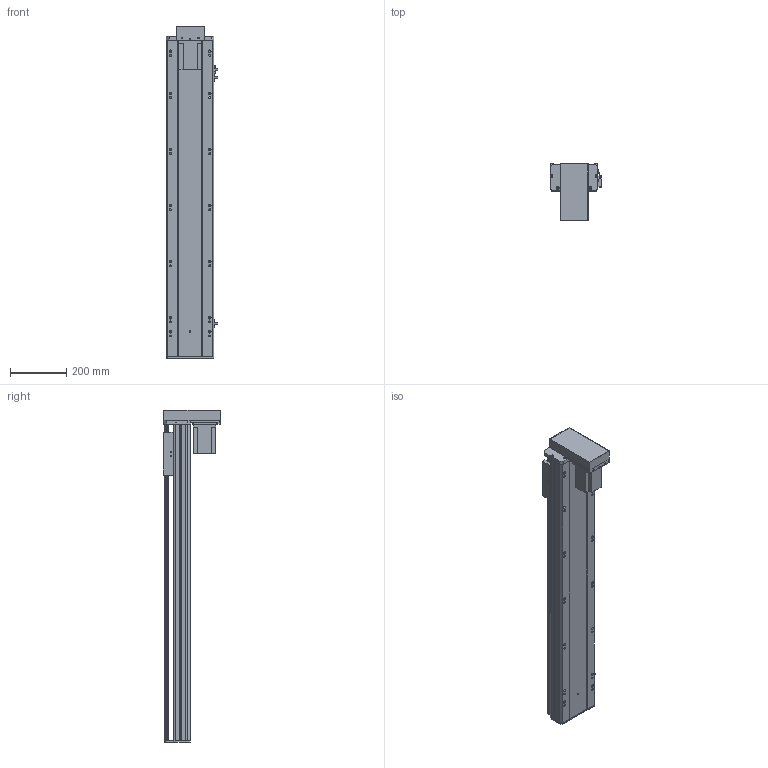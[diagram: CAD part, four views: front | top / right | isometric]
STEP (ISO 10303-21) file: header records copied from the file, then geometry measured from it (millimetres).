
FILE_DESCRIPTION (( 'STEP AP203' ), '1' );
FILE_NAME ('Y170-D10-S900-BM-P750W.STEP', '2020-01-22T03:14:36', ( '微软用户' ), ( '微软中国' ), 'SwSTEP 2.0', 'SolidWorks 2017', '' );
FILE_SCHEMA (( 'CONFIG_CONTROL_DESIGN' ));
Length unit declared in the file: millimetre
Products named in the file (12): Y100-135俋离換覜ん; 侂狟750W; Y170-D10-S900-BM-P750W; EGH20賑輸_蕼偞; Y雄赽釱-耜蚾; Y170-陔遴奻裔-BR; 170-BM耜蚾蟀諉啣; Y170-BM--P750W楊擘啣; -BM俋袗; Y170耜裔--準---; YD-Y100-135-新外置传感挡片(通用）; 170--掛极-BR
Assembly tree (14 placements, depth 2):
  Y170-D10-S900-BM-P750W
    Y170耜裔--準---
    170--掛极-BR
    侂狟750W
    EGH20賑輸_蕼偞  x2
    Y雄赽釱-耜蚾
    Y170-陔遴奻裔-BR
    170-BM耜蚾蟀諉啣
    Y170-BM--P750W楊擘啣
    -BM俋袗
    YD-Y100-135-新外置传感挡片(通用）
    Y100-135俋离換覜ん  x3
Bounding box: 183.5 x 203.5 x 1183.5 mm (x, y, z)
Volume: 5682892.3 mm3; surface area: 1947492.6 mm2
Topology: 14 solids, 14 shells, 918 faces, 2604 edges, 1718 vertices
Faces by surface type: cylinder 466, plane 436, cone 16
Entity records: 29226 total; most frequent: CARTESIAN_POINT 5223, DIRECTION 4824, ORIENTED_EDGE 4704, EDGE_CURVE 2352, AXIS2_PLACEMENT_3D 1715, VERTEX_POINT 1562, LINE 1394, VECTOR 1394
